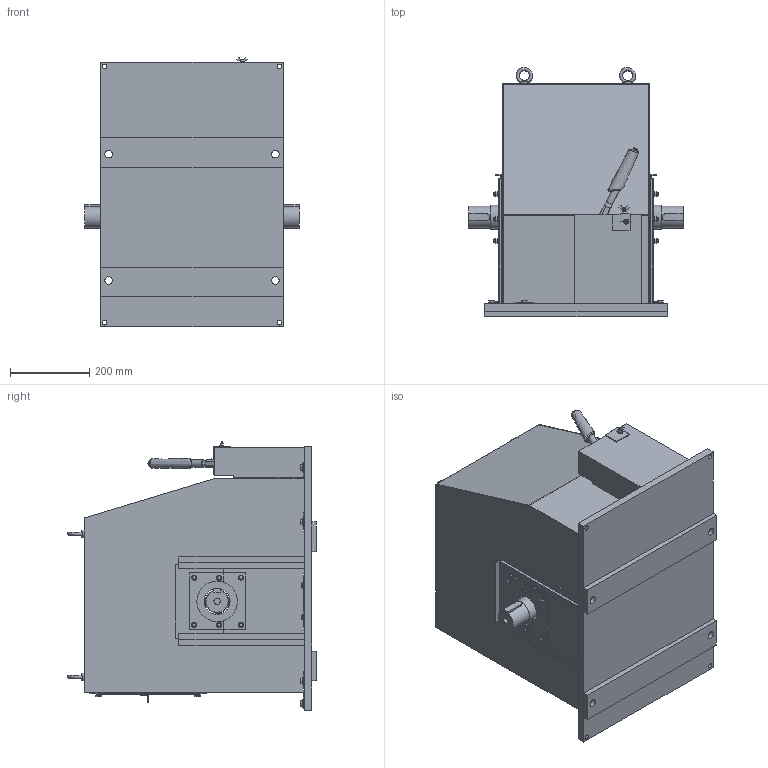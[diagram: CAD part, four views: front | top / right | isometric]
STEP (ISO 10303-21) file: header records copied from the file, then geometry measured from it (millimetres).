
FILE_DESCRIPTION (( 'STEP AP203' ), '1' );
FILE_NAME ('ECE-1514-01_水門用直流電磁ブレーキ.STEP', '2026-03-03T01:26:30', ( '' ), ( '' ), 'SwSTEP 2.0', 'SolidWorks 2025', '' );
FILE_SCHEMA (( 'CONFIG_CONTROL_DESIGN' ));
Length unit declared in the file: millimetre
Products named in the file (1): ECE-1514-01_水門用直流電磁ブレーキ
Bounding box: 540 x 626.46 x 677.7 mm (x, y, z)
Volume: 13124441.3 mm3; surface area: 3637925.1 mm2
Topology: 14 solids, 14 shells, 1062 faces, 2701 edges, 1716 vertices
Faces by surface type: plane 682, cylinder 170, cone 162, sphere 20, torus 17, bspline 11
Full cylindrical faces by diameter (mm): 6 x2, 7 x3, 8.13 x3, 8.5 x4, 9.5 x1, 10 x16, 12 x5, 13 x17, 16 x1, 18 x7, 19 x8, 25 x1, 55 x2, 60 x1, 65 x2
Entity records: 37867 total; most frequent: CARTESIAN_POINT 13154, ORIENTED_EDGE 5130, DIRECTION 4790, EDGE_CURVE 2565, VERTEX_POINT 1677, VECTOR 1676, LINE 1676, AXIS2_PLACEMENT_3D 1557
